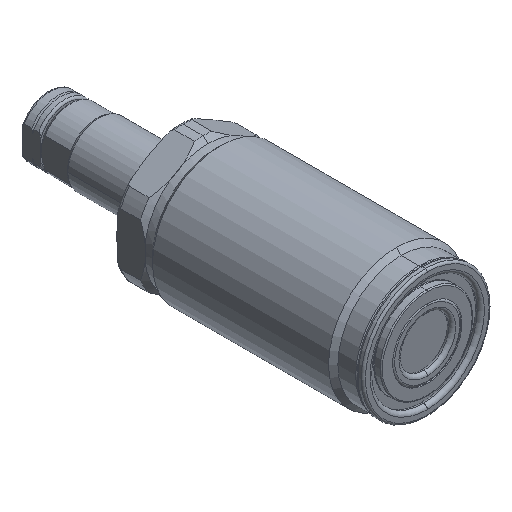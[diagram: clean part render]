
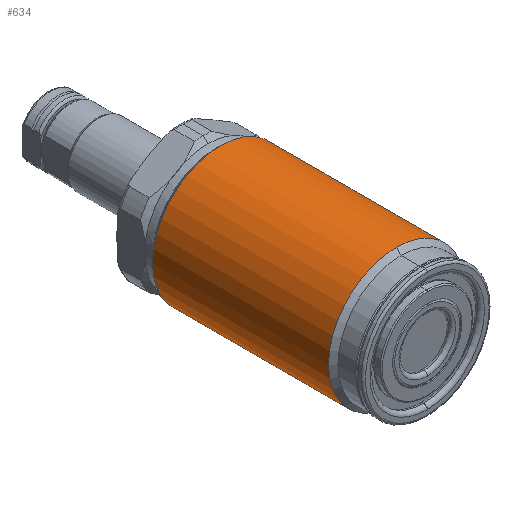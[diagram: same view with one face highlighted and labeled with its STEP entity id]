
A CAD part, isometric view. The second image highlights one B-rep face of the part: STEP entity #634.
In plain terms, the highlighted cylindrical face has radius 13 mm (diameter 26 mm), a full revolution.
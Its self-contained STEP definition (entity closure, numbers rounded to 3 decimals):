
#295=FACE_BOUND('',#1005,.T.);
#296=FACE_BOUND('',#1006,.T.);
#337=CYLINDRICAL_SURFACE('',#2863,13.);
#405=LINE('',#4506,#501);
#406=LINE('',#4509,#502);
#407=LINE('',#4511,#503);
#408=LINE('',#4516,#504);
#501=VECTOR('',#3502,1.);
#502=VECTOR('',#3505,1.);
#503=VECTOR('',#3506,1.);
#504=VECTOR('',#3509,1.);
#634=ADVANCED_FACE('',(#295,#296),#337,.T.);
#1005=EDGE_LOOP('',(#1468,#1469,#1470,#1471,#1472,#1473));
#1006=EDGE_LOOP('',(#1474,#1475,#1476,#1477,#1478,#1479));
#1468=ORIENTED_EDGE('',*,*,#2255,.T.);
#1469=ORIENTED_EDGE('',*,*,#2256,.T.);
#1470=ORIENTED_EDGE('',*,*,#2256,.F.);
#1471=ORIENTED_EDGE('',*,*,#2257,.T.);
#1472=ORIENTED_EDGE('',*,*,#2258,.T.);
#1473=ORIENTED_EDGE('',*,*,#2258,.F.);
#1474=ORIENTED_EDGE('',*,*,#2259,.T.);
#1475=ORIENTED_EDGE('',*,*,#2260,.T.);
#1476=ORIENTED_EDGE('',*,*,#2261,.F.);
#1477=ORIENTED_EDGE('',*,*,#2261,.T.);
#1478=ORIENTED_EDGE('',*,*,#2262,.T.);
#1479=ORIENTED_EDGE('',*,*,#2259,.F.);
#1955=VERTEX_POINT('',#4504);
#1956=VERTEX_POINT('',#4505);
#1957=VERTEX_POINT('',#4507);
#1958=VERTEX_POINT('',#4510);
#1959=VERTEX_POINT('',#4512);
#1960=VERTEX_POINT('',#4513);
#1961=VERTEX_POINT('',#4515);
#1962=VERTEX_POINT('',#4517);
#2255=EDGE_CURVE('',#1955,#1956,#2558,.T.);
#2256=EDGE_CURVE('',#1956,#1957,#405,.T.);
#2257=EDGE_CURVE('',#1956,#1955,#2559,.T.);
#2258=EDGE_CURVE('',#1955,#1958,#406,.T.);
#2259=EDGE_CURVE('',#1959,#1960,#407,.T.);
#2260=EDGE_CURVE('',#1960,#1961,#2560,.T.);
#2261=EDGE_CURVE('',#1962,#1961,#408,.T.);
#2262=EDGE_CURVE('',#1961,#1960,#2561,.T.);
#2558=CIRCLE('',#2859,13.);
#2559=CIRCLE('',#2860,13.);
#2560=CIRCLE('',#2861,13.);
#2561=CIRCLE('',#2862,13.);
#2859=AXIS2_PLACEMENT_3D('',#4503,#3500,#3501);
#2860=AXIS2_PLACEMENT_3D('',#4508,#3503,#3504);
#2861=AXIS2_PLACEMENT_3D('',#4514,#3507,#3508);
#2862=AXIS2_PLACEMENT_3D('',#4518,#3510,#3511);
#2863=AXIS2_PLACEMENT_3D('',#4519,#3512,#3513);
#3500=DIRECTION('',(0.,1.,0.));
#3501=DIRECTION('',(0.,0.,1.));
#3502=DIRECTION('',(0.,1.,0.));
#3503=DIRECTION('',(0.,1.,0.));
#3504=DIRECTION('',(0.,0.,1.));
#3505=DIRECTION('',(0.,1.,0.));
#3506=DIRECTION('',(0.,1.,0.));
#3507=DIRECTION('',(0.,-1.,0.));
#3508=DIRECTION('',(0.,0.,1.));
#3509=DIRECTION('',(0.,1.,0.));
#3510=DIRECTION('',(0.,-1.,0.));
#3511=DIRECTION('',(0.,0.,1.));
#3512=DIRECTION('',(0.,1.,0.));
#3513=DIRECTION('',(0.,0.,1.));
#4503=CARTESIAN_POINT('',(0.,4.6,0.));
#4504=CARTESIAN_POINT('',(0.,4.6,13.));
#4505=CARTESIAN_POINT('',(0.,4.6,-13.));
#4506=CARTESIAN_POINT('',(0.,40.8,-13.));
#4507=CARTESIAN_POINT('',(0.,30.3,-13.));
#4508=CARTESIAN_POINT('',(0.,4.6,0.));
#4509=CARTESIAN_POINT('',(0.,40.8,13.));
#4510=CARTESIAN_POINT('',(0.,30.3,13.));
#4511=CARTESIAN_POINT('',(0.,40.8,13.));
#4512=CARTESIAN_POINT('',(0.,36.3,13.));
#4513=CARTESIAN_POINT('',(0.,38.3,13.));
#4514=CARTESIAN_POINT('',(0.,38.3,0.));
#4515=CARTESIAN_POINT('',(0.,38.3,-13.));
#4516=CARTESIAN_POINT('',(0.,40.8,-13.));
#4517=CARTESIAN_POINT('',(0.,36.3,-13.));
#4518=CARTESIAN_POINT('',(0.,38.3,0.));
#4519=CARTESIAN_POINT('',(0.,40.8,0.));
